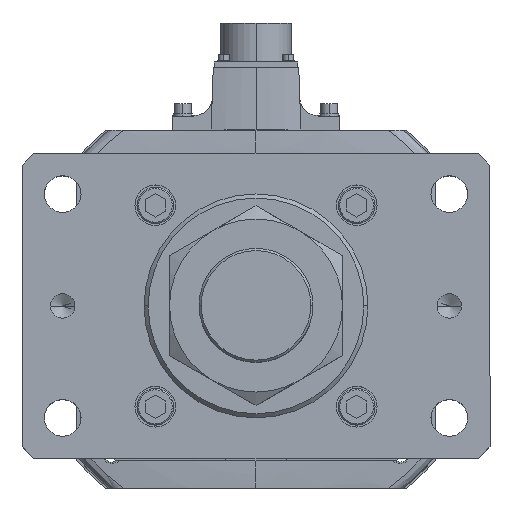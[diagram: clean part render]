
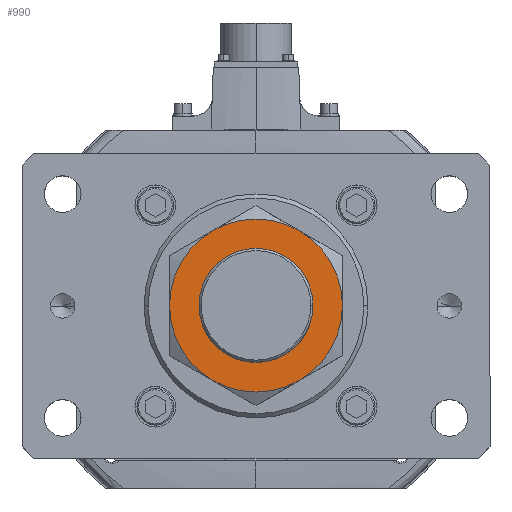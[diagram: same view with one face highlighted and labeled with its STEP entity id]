
A CAD part, top view. The second image highlights one B-rep face of the part: STEP entity #990.
In plain terms, the highlighted planar face has unit normal (0, 0, 1).
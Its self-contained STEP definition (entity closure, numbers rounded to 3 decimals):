
#67 = EDGE_CURVE ( 'NONE', #32410, #51232, #8142, .T. ) ;
#783 = CARTESIAN_POINT ( 'NONE',  ( 0., 0., 34. ) ) ;
#889 = DIRECTION ( 'NONE',  ( 0., 0., 1. ) ) ;
#990 = ADVANCED_FACE ( 'NONE', ( #40720, #42022 ), #18940, .T. ) ;
#1392 = EDGE_CURVE ( 'NONE', #26919, #11233, #26627, .T. ) ;
#2267 = DIRECTION ( 'NONE',  ( -1., 0., 0. ) ) ;
#2268 = VERTEX_POINT ( 'NONE', #30436 ) ;
#2405 = VERTEX_POINT ( 'NONE', #23885 ) ;
#2412 = DIRECTION ( 'NONE',  ( 1., 0., 0. ) ) ;
#2645 = EDGE_LOOP ( 'NONE', ( #11625, #16279, #49506, #28910, #26158, #27861 ) ) ;
#3433 = CARTESIAN_POINT ( 'NONE',  ( 0., 0., 34. ) ) ;
#3516 = CARTESIAN_POINT ( 'NONE',  ( 0., 0., 34. ) ) ;
#4218 = DIRECTION ( 'NONE',  ( 0., 0., -1. ) ) ;
#4572 = AXIS2_PLACEMENT_3D ( 'NONE', #48716, #48905, #2412 ) ;
#5239 = DIRECTION ( 'NONE',  ( 0., 0., -1. ) ) ;
#5835 = CARTESIAN_POINT ( 'NONE',  ( -21.25, -36.806, 34. ) ) ;
#8142 = CIRCLE ( 'NONE', #10625, 42.5 ) ;
#8497 = CARTESIAN_POINT ( 'NONE',  ( 0., 0., 34. ) ) ;
#8654 = DIRECTION ( 'NONE',  ( 0., 0., -1. ) ) ;
#8847 = DIRECTION ( 'NONE',  ( 1., 0., 0. ) ) ;
#8904 = AXIS2_PLACEMENT_3D ( 'NONE', #26086, #8654, #8847 ) ;
#10625 = AXIS2_PLACEMENT_3D ( 'NONE', #3516, #23614, #2267 ) ;
#11233 = VERTEX_POINT ( 'NONE', #5835 ) ;
#11625 = ORIENTED_EDGE ( 'NONE', *, *, #49358, .F. ) ;
#12930 = AXIS2_PLACEMENT_3D ( 'NONE', #783, #25641, #51547 ) ;
#13950 = DIRECTION ( 'NONE',  ( 1., 0., 0. ) ) ;
#14482 = CARTESIAN_POINT ( 'NONE',  ( -42.5, 0., 34. ) ) ;
#14895 = VERTEX_POINT ( 'NONE', #30719 ) ;
#16279 = ORIENTED_EDGE ( 'NONE', *, *, #52104, .F. ) ;
#17418 = AXIS2_PLACEMENT_3D ( 'NONE', #34308, #889, #30409 ) ;
#17975 = CIRCLE ( 'NONE', #20952, 42.5 ) ;
#18441 = CIRCLE ( 'NONE', #12930, 42.5 ) ;
#18940 = PLANE ( 'NONE',  #4572 ) ;
#19229 = CIRCLE ( 'NONE', #19612, 42.5 ) ;
#19612 = AXIS2_PLACEMENT_3D ( 'NONE', #22332, #51924, #13950 ) ;
#20952 = AXIS2_PLACEMENT_3D ( 'NONE', #51339, #5239, #39237 ) ;
#21167 = CARTESIAN_POINT ( 'NONE',  ( 28., 0., 34. ) ) ;
#22332 = CARTESIAN_POINT ( 'NONE',  ( 0., 0., 34. ) ) ;
#23552 = CIRCLE ( 'NONE', #55065, 28. ) ;
#23614 = DIRECTION ( 'NONE',  ( 0., 0., -1. ) ) ;
#23885 = CARTESIAN_POINT ( 'NONE',  ( 21.25, 36.806, 34. ) ) ;
#25641 = DIRECTION ( 'NONE',  ( 0., 0., -1. ) ) ;
#26086 = CARTESIAN_POINT ( 'NONE',  ( 0., 0., 34. ) ) ;
#26158 = ORIENTED_EDGE ( 'NONE', *, *, #50840, .F. ) ;
#26627 = CIRCLE ( 'NONE', #8904, 42.5 ) ;
#26919 = VERTEX_POINT ( 'NONE', #54085 ) ;
#27861 = ORIENTED_EDGE ( 'NONE', *, *, #1392, .F. ) ;
#28910 = ORIENTED_EDGE ( 'NONE', *, *, #67, .F. ) ;
#29032 = EDGE_CURVE ( 'NONE', #51232, #2405, #46362, .T. ) ;
#30409 = DIRECTION ( 'NONE',  ( 1., 0., 0. ) ) ;
#30436 = CARTESIAN_POINT ( 'NONE',  ( -28., 0., 34. ) ) ;
#30719 = CARTESIAN_POINT ( 'NONE',  ( 42.5, 0., 34. ) ) ;
#31938 = EDGE_LOOP ( 'NONE', ( #50082, #36453 ) ) ;
#32410 = VERTEX_POINT ( 'NONE', #14482 ) ;
#32990 = DIRECTION ( 'NONE',  ( 0., 0., 1. ) ) ;
#33160 = DIRECTION ( 'NONE',  ( 1., 0., 0. ) ) ;
#34308 = CARTESIAN_POINT ( 'NONE',  ( 0., 0., 34. ) ) ;
#36453 = ORIENTED_EDGE ( 'NONE', *, *, #54269, .F. ) ;
#39237 = DIRECTION ( 'NONE',  ( 1., 0., 0. ) ) ;
#39829 = EDGE_CURVE ( 'NONE', #2268, #44110, #44713, .T. ) ;
#40720 = FACE_OUTER_BOUND ( 'NONE', #2645, .T. ) ;
#42022 = FACE_BOUND ( 'NONE', #31938, .T. ) ;
#43089 = DIRECTION ( 'NONE',  ( 1., 0., 0. ) ) ;
#43741 = AXIS2_PLACEMENT_3D ( 'NONE', #8497, #4218, #43089 ) ;
#44110 = VERTEX_POINT ( 'NONE', #21167 ) ;
#44713 = CIRCLE ( 'NONE', #17418, 28. ) ;
#46362 = CIRCLE ( 'NONE', #43741, 42.5 ) ;
#48716 = CARTESIAN_POINT ( 'NONE',  ( 0., 0., 34. ) ) ;
#48905 = DIRECTION ( 'NONE',  ( 0., 0., 1. ) ) ;
#49358 = EDGE_CURVE ( 'NONE', #14895, #26919, #17975, .T. ) ;
#49506 = ORIENTED_EDGE ( 'NONE', *, *, #29032, .F. ) ;
#50082 = ORIENTED_EDGE ( 'NONE', *, *, #39829, .F. ) ;
#50840 = EDGE_CURVE ( 'NONE', #11233, #32410, #19229, .T. ) ;
#51232 = VERTEX_POINT ( 'NONE', #51676 ) ;
#51339 = CARTESIAN_POINT ( 'NONE',  ( 0., 0., 34. ) ) ;
#51547 = DIRECTION ( 'NONE',  ( 1., 0., 0. ) ) ;
#51676 = CARTESIAN_POINT ( 'NONE',  ( -21.25, 36.806, 34. ) ) ;
#51924 = DIRECTION ( 'NONE',  ( 0., 0., -1. ) ) ;
#52104 = EDGE_CURVE ( 'NONE', #2405, #14895, #18441, .T. ) ;
#54085 = CARTESIAN_POINT ( 'NONE',  ( 21.25, -36.806, 34. ) ) ;
#54269 = EDGE_CURVE ( 'NONE', #44110, #2268, #23552, .T. ) ;
#55065 = AXIS2_PLACEMENT_3D ( 'NONE', #3433, #32990, #33160 ) ;
